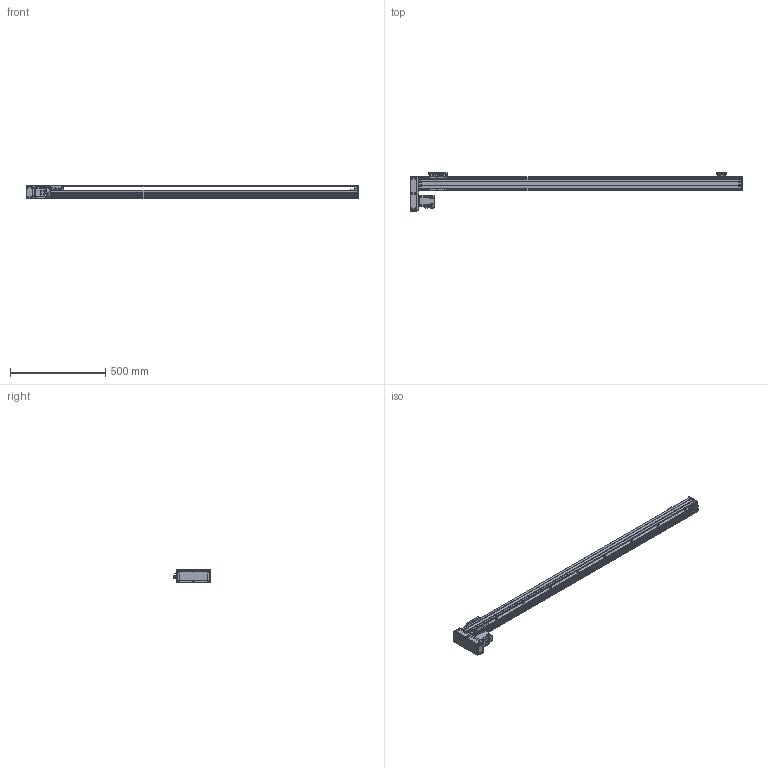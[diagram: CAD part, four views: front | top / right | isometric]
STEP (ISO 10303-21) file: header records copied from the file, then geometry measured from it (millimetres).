
FILE_DESCRIPTION(/* description */ (''),/* implementation_level */ '2;1');
FILE_NAME(/* name */ '\\192.168.0.160\disk1\HAN SHIN Master\B-설계부문\C-표준\B-2024년\BC02-표준도면\+로봇 개선표준도면\홈페이지 표준 도면\홈페이지 최종 작업 폴더\3D\HR\HR75\HR75병렬\우병렬\HR75-R20-N1B-1500-L10.stp',/* time_stamp */ '2025-01-18T16:56:10+09:00',/* author */ ('user'),/* organization */ (''),/* preprocessor_version */ 'ST-DEVELOPER v18.1',/* originating_system */ 'Autodesk Inventor 2022',/* authorisation */ '');
FILE_SCHEMA (('CONFIG_CONTROL_DESIGN'));
Products named in the file (23): HG75-L20-N1B-0500-R10 - 간소화; BASE; HR75 FRONT BLOCK; HR75 REAR COVER-TENTION; HR75 TENSION REAR BLOCK; HG3UPCOV001; H 15F_BLOCK; HG90STOPPER - 20L; HG90STOPPER - 27L; MOTOR PLATE-200W(MITSUBISHI); 화살표; hg-kr23_; M-5HL-4; HR75 W TABLE; LMKE1520 NUT; HR75-LR-BELT COVER(200W); HR75-BELT COVER-COVER2; HR75-BELT COVER-COVER; HR65-BELT COVER-COVER3; HC75-LR-MOTOR PLATE(200W)-사출_MIR; HR65,75 SENSOR DOG; EE_SX674A; SENSOR BRK(EE-SX674A)
Assembly tree (28 placements, depth 2):
  HG75-L20-N1B-0500-R10 - 간소화
    BASE
    HR75 FRONT BLOCK
    HR75 REAR COVER-TENTION
    HR75 TENSION REAR BLOCK
    HG3UPCOV001
    H 15F_BLOCK
    HG90STOPPER - 20L
    HG90STOPPER - 27L
    MOTOR PLATE-200W(MITSUBISHI)
    화살표  x2
    hg-kr23_
    M-5HL-4
    HR75 W TABLE
    LMKE1520 NUT
    SENSOR BRK(EE-SX674A)  x3
    EE_SX674A  x3
    HR75-LR-BELT COVER(200W)
    HR75-BELT COVER-COVER2
    HR75-BELT COVER-COVER
    HR65-BELT COVER-COVER3  x2
    HC75-LR-MOTOR PLATE(200W)-사출_MIR
    HR65,75 SENSOR DOG
Bounding box: 1739 x 199 x 73 mm (x, y, z)
Volume: 2477875.3 mm3; surface area: 1154848.9 mm2
Topology: 28 solids, 28 shells, 2967 faces, 8168 edges, 5399 vertices
Faces by surface type: plane 2187, cylinder 665, cone 107, sphere 8
Full cylindrical faces by diameter (mm): 1.8 x1, 2 x4, 2.013 x2, 2.459 x16, 2.5 x2, 3 x8, 3.242 x73, 3.4 x20, 3.5 x6, 4.134 x52, 4.5 x22, 4.917 x5, 5 x31, 5.5 x36, 5.6 x8, 5.8 x4, 5.9 x8, 6 x4, 6.5 x1, 7 x1, 8 x1, 9.5 x32, 14 x1, 15 x3, 17 x1, 20 x1, 25 x2, 28 x1, 32 x2, 33.7 x1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
Entity records: 91455 total; most frequent: CARTESIAN_POINT 16190, ORIENTED_EDGE 15220, DIRECTION 14529, EDGE_CURVE 7610, LINE 6213, VECTOR 6213, VERTEX_POINT 5067, AXIS2_PLACEMENT_3D 4158
